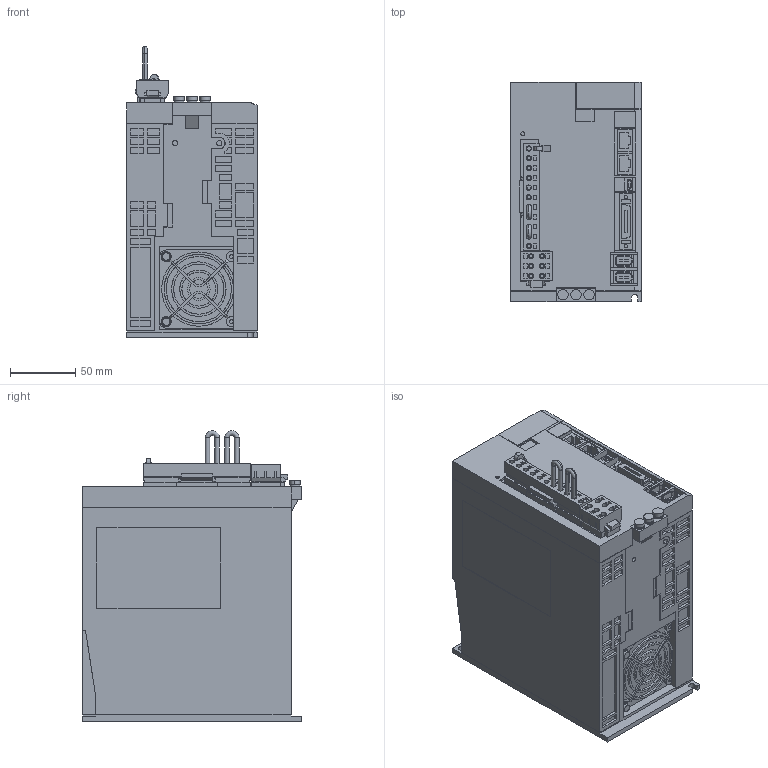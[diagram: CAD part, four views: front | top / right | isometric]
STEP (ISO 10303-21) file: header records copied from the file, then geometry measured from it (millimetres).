
FILE_DESCRIPTION (( 'STEP AP203' ), '1' );
FILE_NAME ('sgdxw_7r6a__a.STEP', '2021-02-19T01:25:30', ( 'YMANOUCHI' ), ( 'TAKUMI-Engniaring' ), 'SwSTEP 2.0', 'SolidWorks 2005204', '' );
FILE_SCHEMA (( 'CONFIG_CONTROL_DESIGN' ));
Products named in the file (8): sgdxw_7r6a__a_pin; sgdxw_7r6a__a_cable; sgdxw_7r6a__a; sgdxw_7r6a__a_base; sgdxw_7r6a__a_connector; sgdxw_7r6a__a_connector_2; sgdxw_7r6a__a_connector_1; sgdxw_7r6a__a_cover
Assembly tree (8 placements, depth 3):
  sgdxw_7r6a__a
    sgdxw_7r6a__a_connector_1
    sgdxw_7r6a__a_cover
    sgdxw_7r6a__a_base
    sgdxw_7r6a__a_connector
      sgdxw_7r6a__a_cable  x2
      sgdxw_7r6a__a_connector_2
      sgdxw_7r6a__a_pin
Bounding box: 100 x 168 x 223 mm (x, y, z)
Volume: 2830998.9 mm3; surface area: 178476.3 mm2
Topology: 7 solids, 7 shells, 1794 faces, 4736 edges, 3128 vertices
Faces by surface type: plane 1597, cylinder 193, torus 4
Entity records: 55214 total; most frequent: CARTESIAN_POINT 9614, ORIENTED_EDGE 9420, DIRECTION 8736, EDGE_CURVE 4710, LINE 4268, VECTOR 4268, VERTEX_POINT 3112, AXIS2_PLACEMENT_3D 2234
